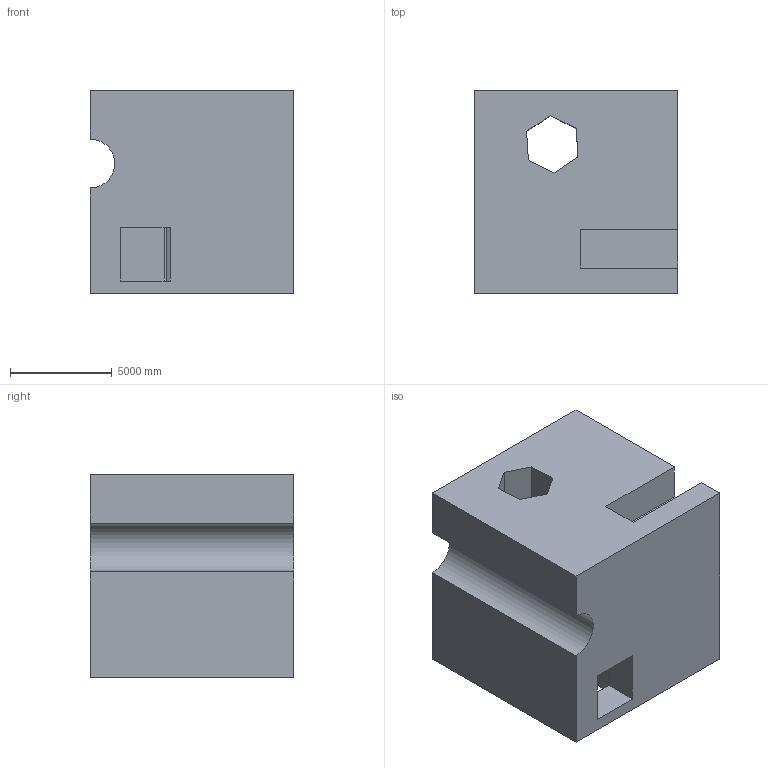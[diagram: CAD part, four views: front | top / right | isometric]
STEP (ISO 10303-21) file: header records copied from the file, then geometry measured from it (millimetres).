
FILE_DESCRIPTION (( 'STEP AP203' ), '1' );
FILE_NAME ('598.STEP', '2022-07-29T12:00:53', ( 'user' ), ( '' ), 'SwSTEP 2.0', 'SolidWorks 2021', '' );
FILE_SCHEMA (( 'CONFIG_CONTROL_DESIGN' ));
Length unit declared in the file: centimetre
Products named in the file (1): 598
Bounding box: 10000 x 10000 x 10000 mm (x, y, z)
Volume: 853109584496.3 mm3; surface area: 772557334.8 mm2
Topology: 1 solids, 1 shells, 33 faces, 96 edges, 64 vertices
Faces by surface type: plane 30, cylinder 3
Entity records: 1165 total; most frequent: CARTESIAN_POINT 194, ORIENTED_EDGE 192, DIRECTION 170, EDGE_CURVE 96, LINE 90, VECTOR 90, VERTEX_POINT 64, AXIS2_PLACEMENT_3D 40
